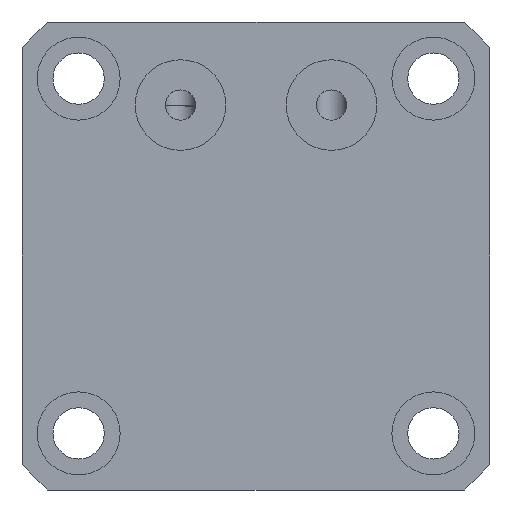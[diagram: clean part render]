
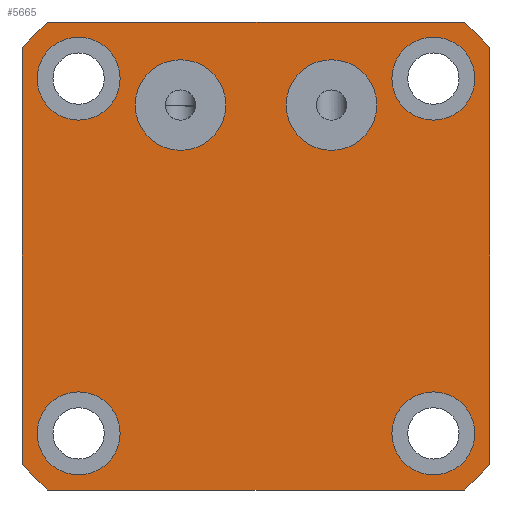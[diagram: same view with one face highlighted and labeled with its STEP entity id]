
A CAD part, left-side view. The second image highlights one B-rep face of the part: STEP entity #5665.
In plain terms, the highlighted planar face has unit normal (-1, 0, 0).
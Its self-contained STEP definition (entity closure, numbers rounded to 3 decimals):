
#3080=FACE_BOUND('',#6869,.T.);
#3081=FACE_BOUND('',#6870,.T.);
#3082=FACE_BOUND('',#6871,.T.);
#3083=FACE_BOUND('',#6872,.T.);
#3084=FACE_BOUND('',#6873,.T.);
#3085=FACE_BOUND('',#6874,.T.);
#3086=FACE_BOUND('',#6875,.T.);
#3220=LINE('',#27255,#4144);
#3224=LINE('',#30257,#4148);
#3226=LINE('',#30263,#4150);
#3227=LINE('',#30267,#4151);
#4144=VECTOR('',#14552,1.);
#4148=VECTOR('',#14722,1.);
#4150=VECTOR('',#14728,1.);
#4151=VECTOR('',#14731,1.);
#5158=PLANE('',#13897);
#5665=ADVANCED_FACE('',(#3080,#3081,#3082,#3083,#3084,#3085,#3086),#5158,
 .F.);
#6869=EDGE_LOOP('',(#8185,#8186,#8187,#8188,#8189,#8190,#8191,#8192));
#6870=EDGE_LOOP('',(#8193));
#6871=EDGE_LOOP('',(#8194));
#6872=EDGE_LOOP('',(#8195));
#6873=EDGE_LOOP('',(#8196));
#6874=EDGE_LOOP('',(#8197));
#6875=EDGE_LOOP('',(#8198));
#7390=CIRCLE('',#13810,6.);
#7392=CIRCLE('',#13813,6.);
#7394=CIRCLE('',#13816,5.5);
#7396=CIRCLE('',#13819,5.5);
#7398=CIRCLE('',#13822,5.5);
#7400=CIRCLE('',#13825,5.5);
#7436=CIRCLE('',#13893,41.5);
#7437=CIRCLE('',#13894,41.5);
#7438=CIRCLE('',#13895,41.5);
#7439=CIRCLE('',#13896,41.5);
#8185=ORIENTED_EDGE('',*,*,#11985,.F.);
#8186=ORIENTED_EDGE('',*,*,#11986,.F.);
#8187=ORIENTED_EDGE('',*,*,#11987,.F.);
#8188=ORIENTED_EDGE('',*,*,#11988,.F.);
#8189=ORIENTED_EDGE('',*,*,#11989,.F.);
#8190=ORIENTED_EDGE('',*,*,#11866,.F.);
#8191=ORIENTED_EDGE('',*,*,#11990,.F.);
#8192=ORIENTED_EDGE('',*,*,#11983,.F.);
#8193=ORIENTED_EDGE('',*,*,#11868,.F.);
#8194=ORIENTED_EDGE('',*,*,#11870,.F.);
#8195=ORIENTED_EDGE('',*,*,#11872,.F.);
#8196=ORIENTED_EDGE('',*,*,#11874,.F.);
#8197=ORIENTED_EDGE('',*,*,#11876,.F.);
#8198=ORIENTED_EDGE('',*,*,#11878,.F.);
#10739=VERTEX_POINT('',#27254);
#10740=VERTEX_POINT('',#27256);
#10741=VERTEX_POINT('',#27260);
#10743=VERTEX_POINT('',#27265);
#10745=VERTEX_POINT('',#27270);
#10747=VERTEX_POINT('',#27275);
#10749=VERTEX_POINT('',#27280);
#10751=VERTEX_POINT('',#27285);
#10837=VERTEX_POINT('',#30256);
#10838=VERTEX_POINT('',#30258);
#10839=VERTEX_POINT('',#30262);
#10840=VERTEX_POINT('',#30264);
#10841=VERTEX_POINT('',#30266);
#10842=VERTEX_POINT('',#30268);
#11866=EDGE_CURVE('',#10739,#10740,#3220,.T.);
#11868=EDGE_CURVE('',#10741,#10741,#7390,.T.);
#11870=EDGE_CURVE('',#10743,#10743,#7392,.T.);
#11872=EDGE_CURVE('',#10745,#10745,#7394,.T.);
#11874=EDGE_CURVE('',#10747,#10747,#7396,.T.);
#11876=EDGE_CURVE('',#10749,#10749,#7398,.T.);
#11878=EDGE_CURVE('',#10751,#10751,#7400,.T.);
#11983=EDGE_CURVE('',#10837,#10838,#3224,.T.);
#11985=EDGE_CURVE('',#10839,#10837,#7436,.T.);
#11986=EDGE_CURVE('',#10840,#10839,#3226,.T.);
#11987=EDGE_CURVE('',#10841,#10840,#7437,.T.);
#11988=EDGE_CURVE('',#10842,#10841,#3227,.T.);
#11989=EDGE_CURVE('',#10740,#10842,#7438,.T.);
#11990=EDGE_CURVE('',#10838,#10739,#7439,.T.);
#13810=AXIS2_PLACEMENT_3D('',#27259,#14556,#14557);
#13813=AXIS2_PLACEMENT_3D('',#27264,#14562,#14563);
#13816=AXIS2_PLACEMENT_3D('',#27269,#14568,#14569);
#13819=AXIS2_PLACEMENT_3D('',#27274,#14574,#14575);
#13822=AXIS2_PLACEMENT_3D('',#27279,#14580,#14581);
#13825=AXIS2_PLACEMENT_3D('',#27284,#14586,#14587);
#13893=AXIS2_PLACEMENT_3D('',#30261,#14726,#14727);
#13894=AXIS2_PLACEMENT_3D('',#30265,#14729,#14730);
#13895=AXIS2_PLACEMENT_3D('',#30269,#14732,#14733);
#13896=AXIS2_PLACEMENT_3D('',#30270,#14734,#14735);
#13897=AXIS2_PLACEMENT_3D('',#30271,#14736,#14737);
#14552=DIRECTION('',(0.,1.,0.));
#14556=DIRECTION('',(-1.,0.,0.));
#14557=DIRECTION('',(0.,0.,1.));
#14562=DIRECTION('',(-1.,0.,0.));
#14563=DIRECTION('',(0.,0.,1.));
#14568=DIRECTION('',(-1.,0.,0.));
#14569=DIRECTION('',(0.,0.,1.));
#14574=DIRECTION('',(-1.,0.,0.));
#14575=DIRECTION('',(0.,0.,1.));
#14580=DIRECTION('',(-1.,0.,0.));
#14581=DIRECTION('',(0.,0.,1.));
#14586=DIRECTION('',(-1.,0.,0.));
#14587=DIRECTION('',(0.,0.,1.));
#14722=DIRECTION('',(0.,0.,-1.));
#14726=DIRECTION('',(1.,0.,0.));
#14727=DIRECTION('',(0.,0.,-1.));
#14728=DIRECTION('',(0.,-1.,0.));
#14729=DIRECTION('',(1.,0.,0.));
#14730=DIRECTION('',(0.,0.,-1.));
#14731=DIRECTION('',(0.,0.,1.));
#14732=DIRECTION('',(1.,0.,0.));
#14733=DIRECTION('',(0.,0.,-1.));
#14734=DIRECTION('',(1.,0.,0.));
#14735=DIRECTION('',(0.,0.,-1.));
#14736=DIRECTION('',(1.,0.,0.));
#14737=DIRECTION('',(0.,0.,1.));
#27254=CARTESIAN_POINT('',(0.,3.409,-62.));
#27255=CARTESIAN_POINT('',(0.,31.,-62.));
#27256=CARTESIAN_POINT('',(0.,58.591,-62.));
#27259=CARTESIAN_POINT('',(0.,41.,-11.));
#27260=CARTESIAN_POINT('',(0.,41.,-5.));
#27264=CARTESIAN_POINT('',(0.,21.,-11.));
#27265=CARTESIAN_POINT('',(0.,21.,-5.));
#27269=CARTESIAN_POINT('',(0.,7.5,-54.5));
#27270=CARTESIAN_POINT('',(0.,7.5,-49.));
#27274=CARTESIAN_POINT('',(0.,7.5,-7.5));
#27275=CARTESIAN_POINT('',(0.,7.5,-2.));
#27279=CARTESIAN_POINT('',(0.,54.5,-7.5));
#27280=CARTESIAN_POINT('',(0.,54.5,-2.));
#27284=CARTESIAN_POINT('',(0.,54.5,-54.5));
#27285=CARTESIAN_POINT('',(0.,54.5,-49.));
#30256=CARTESIAN_POINT('',(0.,0.,-3.409));
#30257=CARTESIAN_POINT('',(0.,0.,-6.));
#30258=CARTESIAN_POINT('',(0.,0.,-58.591));
#30261=CARTESIAN_POINT('',(0.,31.,-31.));
#30262=CARTESIAN_POINT('',(0.,3.409,0.));
#30263=CARTESIAN_POINT('',(0.,31.,0.));
#30264=CARTESIAN_POINT('',(0.,58.591,0.));
#30265=CARTESIAN_POINT('',(0.,31.,-31.));
#30266=CARTESIAN_POINT('',(0.,62.,-3.409));
#30267=CARTESIAN_POINT('',(0.,62.,-31.));
#30268=CARTESIAN_POINT('',(0.,62.,-58.591));
#30269=CARTESIAN_POINT('',(0.,31.,-31.));
#30270=CARTESIAN_POINT('',(0.,31.,-31.));
#30271=CARTESIAN_POINT('',(0.,31.,-31.));
